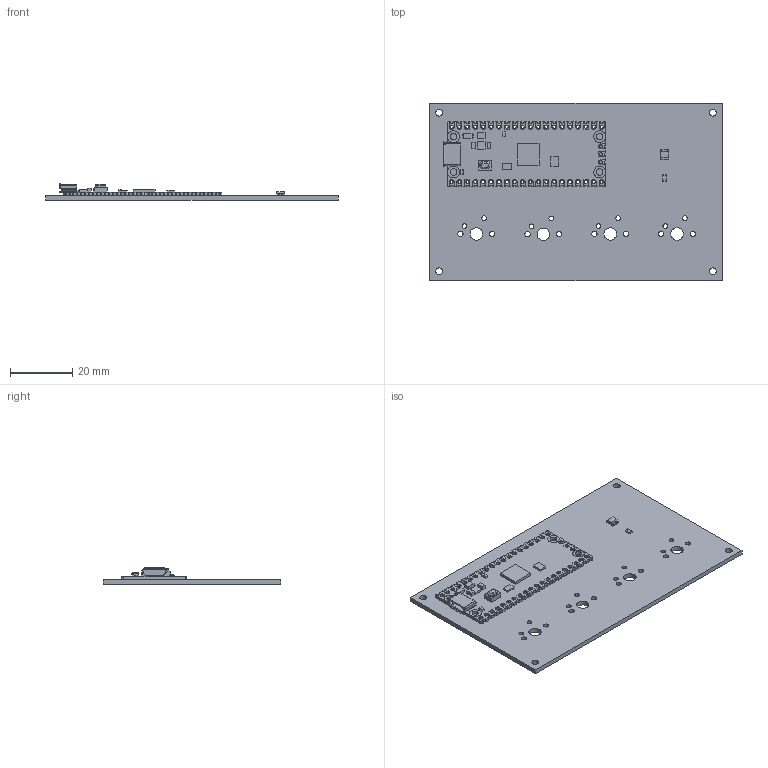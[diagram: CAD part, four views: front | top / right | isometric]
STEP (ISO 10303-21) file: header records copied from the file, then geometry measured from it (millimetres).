
FILE_DESCRIPTION(('KiCad electronic assembly'),'2;1');
FILE_NAME('pcb3d.step','2026-06-21T20:40:03',('Pcbnew'),('Kicad'), 'Open CASCADE STEP processor 7.9','KiCad to STEP converter','Unknown' );
FILE_SCHEMA(('AUTOMOTIVE_DESIGN { 1 0 10303 214 1 1 1 1 }'));
Length unit declared in the file: millimetre
Products named in the file (9): pcb3d 1; RaspberryPi_Pico; RaspberryPi_Pico_KiCad; RaspberryPi_Pico_Module_KiCad; LED_1210_3225Metric; R_0805_2012Metric; PCB_PCB
Assembly tree (8 placements, depth 4):
  pcb3d 1
    RaspberryPi_Pico
      RaspberryPi_Pico_KiCad
        RaspberryPi_Pico_Module_KiCad
    LED_1210_3225Metric
      LED_1210_3225Metric
    R_0805_2012Metric
      R_0805_2012Metric
    PCB_PCB
Bounding box: 94 x 57 x 5.29 mm (x, y, z)
Volume: 9024.1 mm3; surface area: 14024.6 mm2
Topology: 4 solids, 4 shells, 623 faces, 1842 edges, 1258 vertices
Faces by surface type: plane 415, cylinder 206, torus 2
Full cylindrical faces by diameter (mm): 1 x83, 1.5 x8, 1.7 x8, 1.85 x2, 2.1 x4, 2.2 x6, 4 x4
Entity records: 25525 total; most frequent: CARTESIAN_POINT 3732, ORIENTED_EDGE 3684, DIRECTION 3664, EDGE_CURVE 1842, LINE 1284, VECTOR 1284, VERTEX_POINT 1258, AXIS2_PLACEMENT_3D 1190
